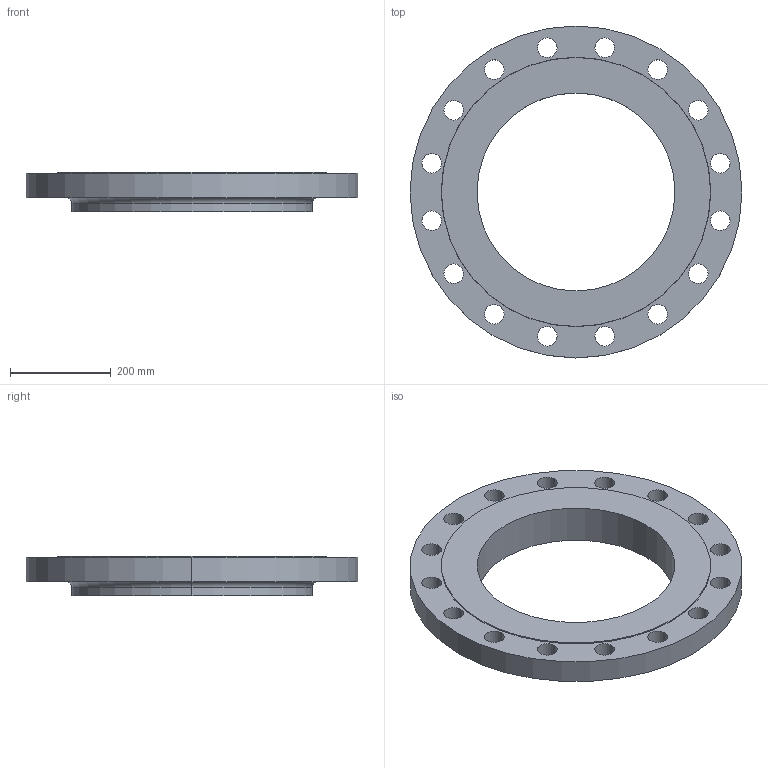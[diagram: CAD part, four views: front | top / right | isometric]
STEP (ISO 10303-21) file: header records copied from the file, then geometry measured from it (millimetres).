
FILE_DESCRIPTION (( 'STEP AP214' ), '1' );
FILE_NAME ('PN40 DN400 Type 13 - Type B Face.STEP', '2019-01-05T23:16:12', ( '' ), ( '' ), 'SwSTEP 2.0', 'SolidWorks 2019', '' );
FILE_SCHEMA (( 'AUTOMOTIVE_DESIGN' ));
Length unit declared in the file: millimetre
Products named in the file (1): PN40 DN400 Type 13 - Type B Face
Bounding box: 660 x 660 x 78 mm (x, y, z)
Volume: 11539992.8 mm3; surface area: 730028.2 mm2
Topology: 1 solids, 1 shells, 46 faces, 124 edges, 82 vertices
Faces by surface type: cylinder 38, plane 4, torus 2, cone 2
Entity records: 1598 total; most frequent: DIRECTION 302, CARTESIAN_POINT 253, ORIENTED_EDGE 248, AXIS2_PLACEMENT_3D 131, EDGE_CURVE 124, CIRCLE 84, VERTEX_POINT 82, EDGE_LOOP 82
